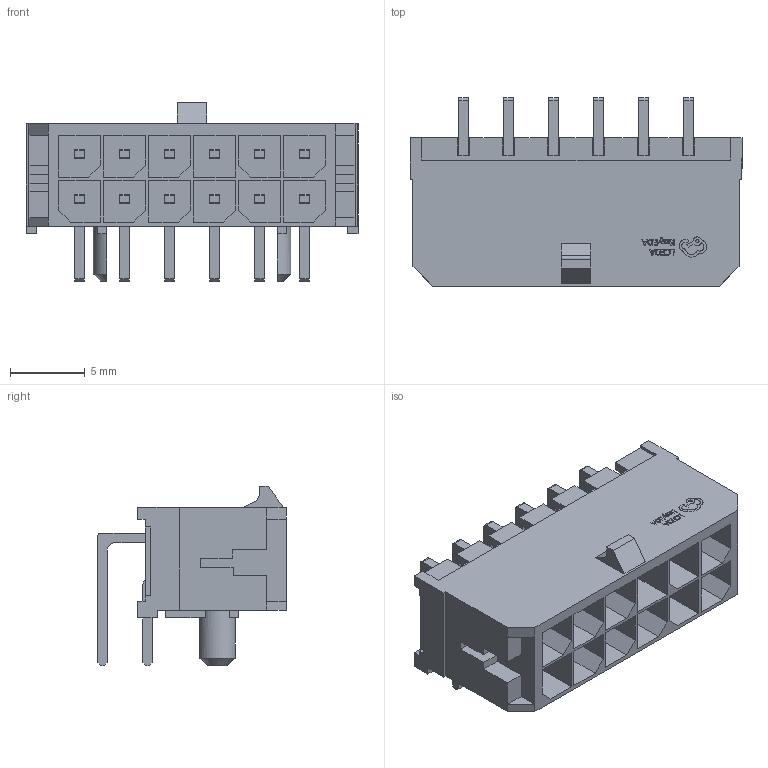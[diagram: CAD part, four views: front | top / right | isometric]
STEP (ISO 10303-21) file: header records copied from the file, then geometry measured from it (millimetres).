
FILE_DESCRIPTION (( 'STEP AP214' ), '1' );
FILE_NAME ('CONN-TH_12P-P3.00-S3.00_L12.2-W21.7-EH10.7.step', '2022-08-02T13:26:01', ( '' ), ( '' ), 'SwSTEP 2.0', 'SolidWorks 2020', '' );
FILE_SCHEMA (( 'AUTOMOTIVE_DESIGN' ));
Length unit declared in the file: millimetre
Products named in the file (1): CONN-TH_12P-P3.00-S3.00_L12.2-W21.7-EH10.7
Bounding box: 22.15 x 12.57 x 11.95 mm (x, y, z)
Volume: 885.3 mm3; surface area: 2111.5 mm2
Topology: 14 solids, 14 shells, 709 faces, 1896 edges, 1261 vertices
Faces by surface type: plane 564, bspline 114, cylinder 28, cone 3
Entity records: 28256 total; most frequent: CARTESIAN_POINT 6241, ORIENTED_EDGE 3792, DIRECTION 2915, EDGE_CURVE 1896, LINE 1597, VECTOR 1597, VERTEX_POINT 1261, EDGE_LOOP 767
